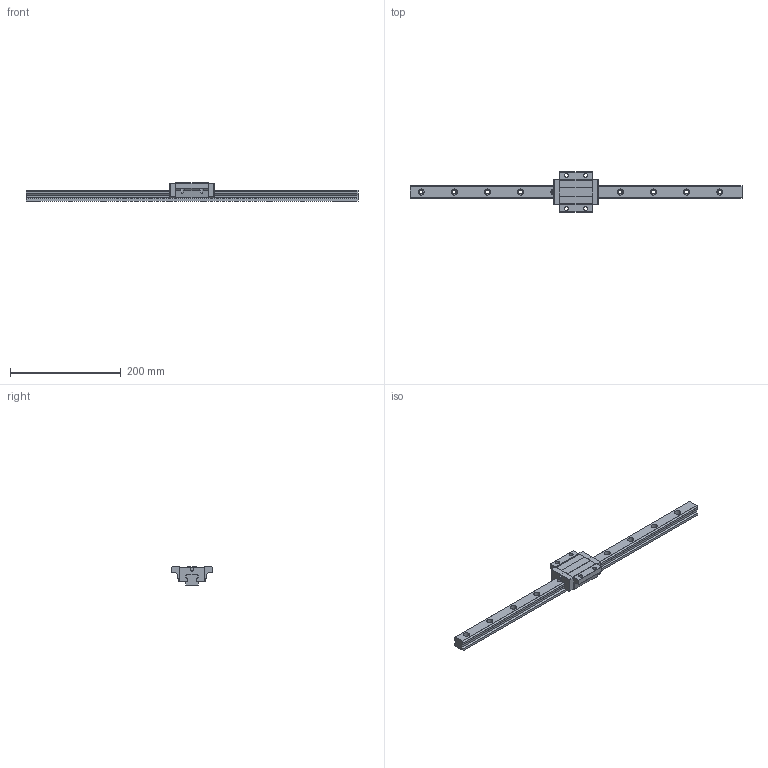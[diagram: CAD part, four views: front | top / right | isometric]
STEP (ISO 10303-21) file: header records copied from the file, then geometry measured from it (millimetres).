
FILE_DESCRIPTION (( 'STEP AP203' ), '1' );
FILE_NAME ('TRS25FN-XNC.STEP', '2024-08-16T07:10:29', ( '' ), ( '' ), 'SwSTEP 2.0', 'SolidWorks 2021', '' );
FILE_SCHEMA (( 'CONFIG_CONTROL_DESIGN' ));
Length unit declared in the file: millimetre
Products named in the file (1): TRS25FN-XNC
Bounding box: 600 x 73 x 33 mm (x, y, z)
Volume: 326484.4 mm3; surface area: 77508.6 mm2
Topology: 1 solids, 1 shells, 211 faces, 582 edges, 378 vertices
Faces by surface type: cylinder 116, plane 91, sphere 4
Entity records: 7144 total; most frequent: CARTESIAN_POINT 1507, DIRECTION 1186, ORIENTED_EDGE 1156, EDGE_CURVE 578, AXIS2_PLACEMENT_3D 422, VERTEX_POINT 378, LINE 342, VECTOR 342
